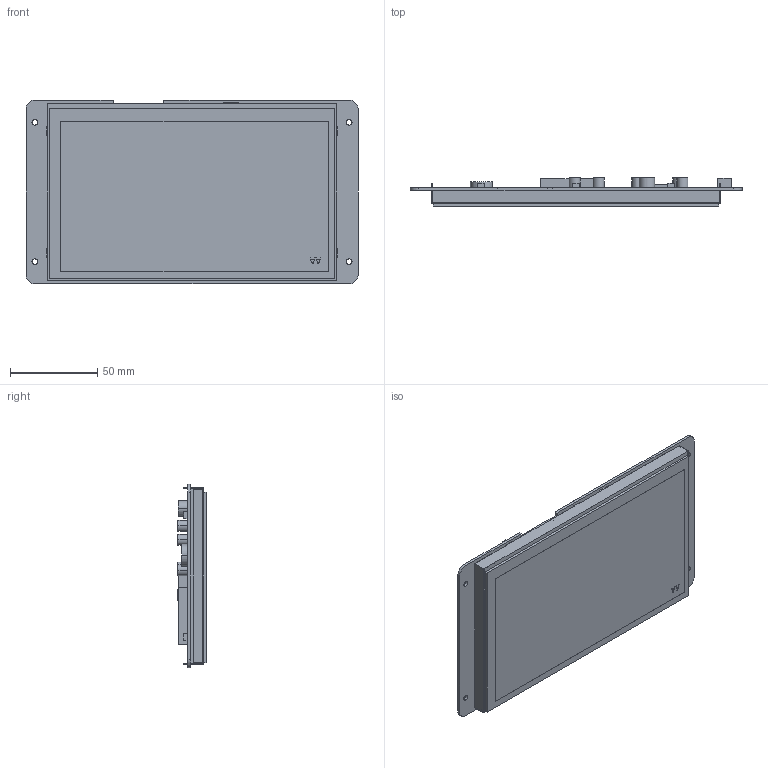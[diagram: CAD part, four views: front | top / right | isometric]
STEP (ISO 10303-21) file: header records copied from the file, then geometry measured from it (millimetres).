
FILE_DESCRIPTION((''),'2;1');
FILE_NAME('DMG80480T070-09WTR_ASM','2021-10-31T',('Administrator'),(''),'PRO/ENGINEER BY PARAMETRIC TECHNOLOGY CORPORATION, 2014320','PRO/ENGINEER BY PARAMETRIC TECHNOLOGY CORPORATION, 2014320','');
FILE_SCHEMA(('CONFIG_CONTROL_DESIGN'));
Length unit declared in the file: millimetre
Products named in the file (5): TK070011; LN80480T070IA9004; YF07045; PCB; DMG80480T070-09WTR_ASM
Assembly tree (4 placements, depth 2):
  DMG80480T070-09WTR_ASM
    TK070011
    LN80480T070IA9004
    YF07045
    PCB
Bounding box: 190.5 x 16.3 x 105.41 mm (x, y, z)
Volume: 155415 mm3; surface area: 125430.3 mm2
Topology: 4 solids, 4 shells, 236 faces, 633 edges, 422 vertices
Faces by surface type: plane 200, cylinder 36
Entity records: 7486 total; most frequent: CARTESIAN_POINT 1300, ORIENTED_EDGE 1266, DIRECTION 1195, EDGE_CURVE 633, VECTOR 561, LINE 561, VERTEX_POINT 422, AXIS2_PLACEMENT_3D 317
